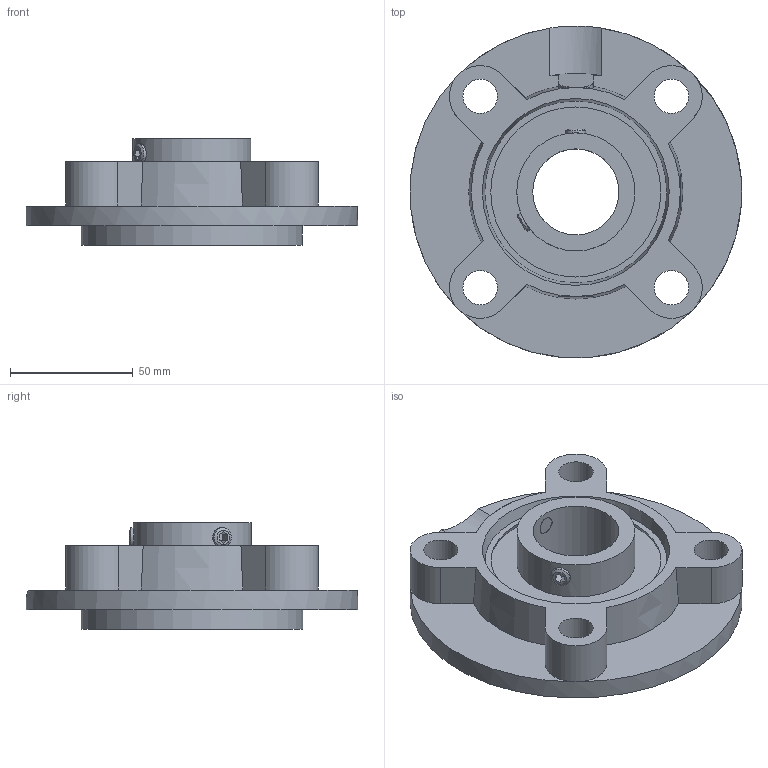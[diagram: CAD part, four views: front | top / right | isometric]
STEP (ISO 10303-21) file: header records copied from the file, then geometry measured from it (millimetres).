
FILE_DESCRIPTION((''),'2;1');
FILE_NAME('\\Ts-tgl068\j-cad-d-base\00.3DCADデータ作成フォルダ\02.フランジ形\BFC200\BFC207.stp','2014-05-08T08:23:30',('btec_1106_2'),(''),'Autodesk Inventor 2012','Autodesk Inventor 2012','');
FILE_SCHEMA(('AUTOMOTIVE_DESIGN { 1 0 10303 214 1 1 1 1 }'));
Length unit declared in the file: millimetre
Products named in the file (3): BFC200; FC207G00; シリーズB [番手=7 ul]
Assembly tree (2 placements, depth 2):
  BFC200
    FC207G00
    シリーズB [番手=7 ul]
Bounding box: 134.84 x 134.96 x 43.4 mm (x, y, z)
Volume: 213210.8 mm3; surface area: 61237.2 mm2
Topology: 2 solids, 2 shells, 74 faces, 181 edges, 119 vertices
Faces by surface type: plane 42, cylinder 19, cone 9, sphere 2, bspline 2
Full cylindrical faces by diameter (mm): 8 x2, 14 x4, 35 x1, 48 x1, 90 x1, 135 x1
Entity records: 2277 total; most frequent: CARTESIAN_POINT 568, DIRECTION 346, ORIENTED_EDGE 306, EDGE_CURVE 153, AXIS2_PLACEMENT_3D 138, EDGE_LOOP 112, VERTEX_POINT 109, FACE_OUTER_BOUND 74
